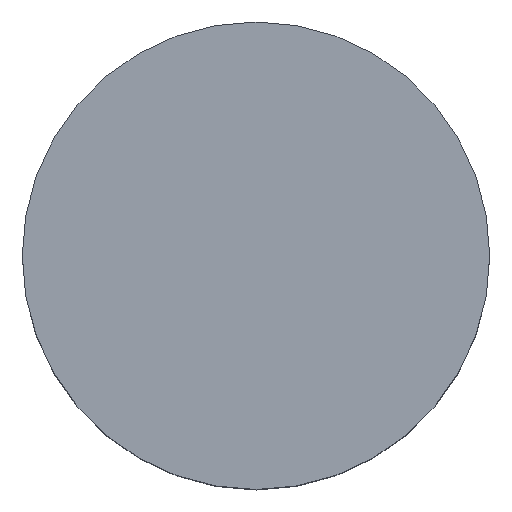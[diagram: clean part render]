
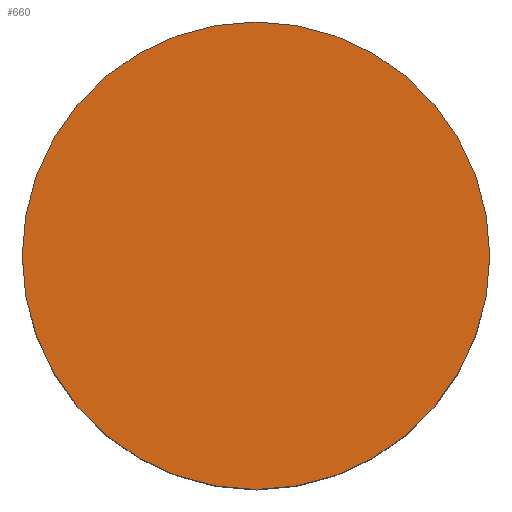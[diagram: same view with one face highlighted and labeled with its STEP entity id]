
A CAD part, top view. The second image highlights one B-rep face of the part: STEP entity #660.
In plain terms, the highlighted planar face has unit normal (0, 0, 1).
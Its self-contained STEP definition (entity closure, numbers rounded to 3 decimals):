
#56=CIRCLE('',#728,17.5);
#112=FACE_OUTER_BOUND('',#168,.T.);
#168=EDGE_LOOP('',(#592));
#339=VERTEX_POINT('',#1108);
#423=EDGE_CURVE('',#339,#339,#56,.T.);
#592=ORIENTED_EDGE('',*,*,#423,.T.);
#619=PLANE('',#731);
#660=ADVANCED_FACE('',(#112),#619,.T.);
#728=AXIS2_PLACEMENT_3D('',#1109,#920,#921);
#731=AXIS2_PLACEMENT_3D('',#1113,#926,#927);
#920=DIRECTION('center_axis',(0.,0.,1.));
#921=DIRECTION('ref_axis',(-1.,0.,0.));
#926=DIRECTION('center_axis',(0.,0.,1.));
#927=DIRECTION('ref_axis',(1.,0.,0.));
#1108=CARTESIAN_POINT('',(17.5,0.,20.4));
#1109=CARTESIAN_POINT('Origin',(0.,0.,20.4));
#1113=CARTESIAN_POINT('Origin',(0.,0.,
20.4));
